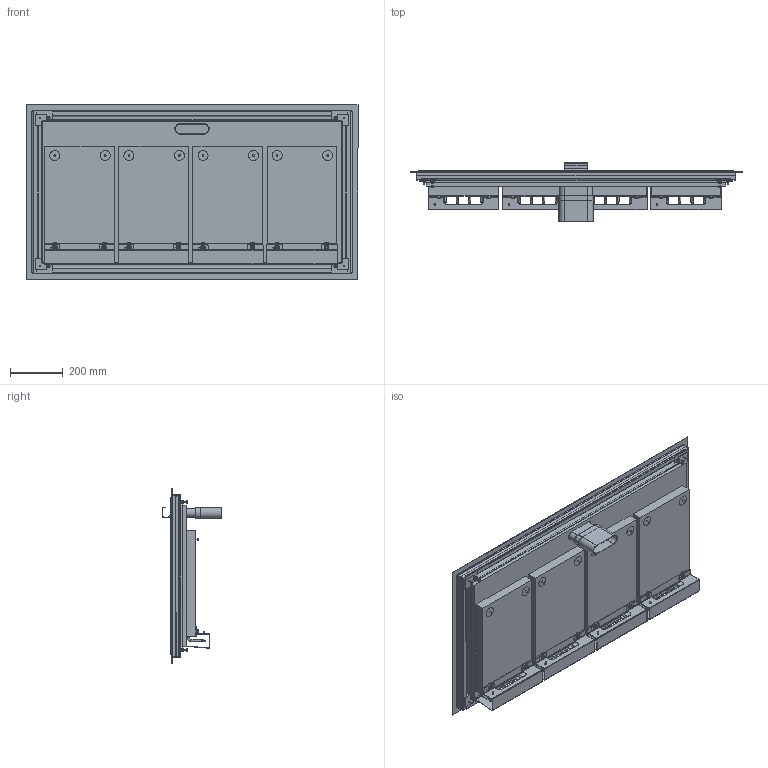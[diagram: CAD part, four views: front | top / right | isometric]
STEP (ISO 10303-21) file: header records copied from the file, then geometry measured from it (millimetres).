
FILE_DESCRIPTION (( 'STEP AP214' ), '1' );
FILE_NAME ('MS-G-120_311044.STEP', '2024-01-26T15:19:39', ( '' ), ( '' ), 'SwSTEP 2.0', 'SolidWorks 2023', '' );
FILE_SCHEMA (( 'AUTOMOTIVE_DESIGN' ));
Length unit declared in the file: millimetre
Products named in the file (1): MS-G-120_311044
Bounding box: 1263 x 225.23 x 663 mm (x, y, z)
Volume: 30220028.4 mm3; surface area: 3203386.8 mm2
Topology: 1 solids, 12 shells, 2797 faces, 6836 edges, 4172 vertices
Faces by surface type: plane 1274, cone 716, cylinder 677, torus 118, bspline 12
Entity records: 89708 total; most frequent: CARTESIAN_POINT 25847, ORIENTED_EDGE 13672, DIRECTION 12882, EDGE_CURVE 6836, AXIS2_PLACEMENT_3D 4930, VERTEX_POINT 4172, VECTOR 3022, LINE 3022
